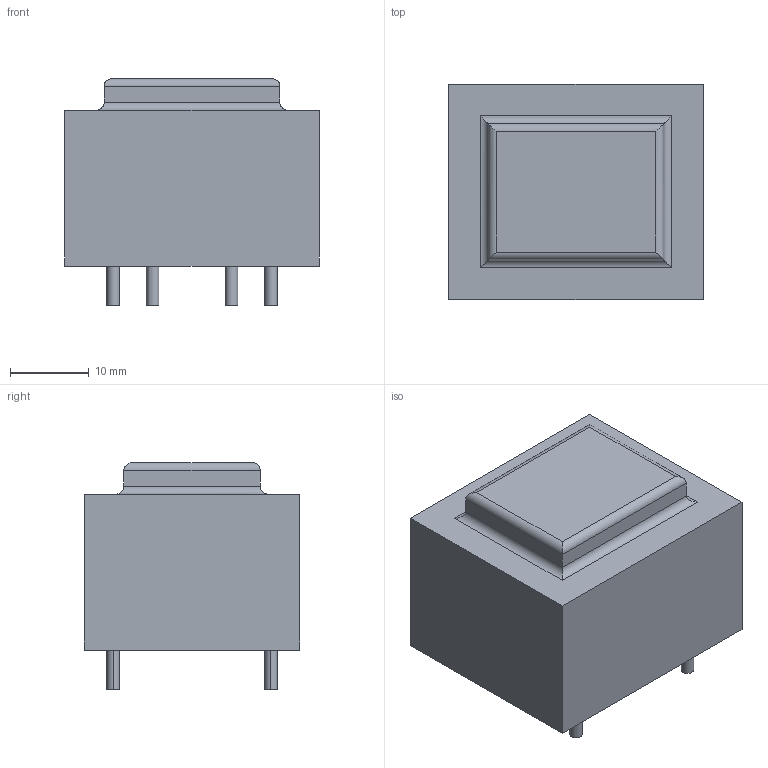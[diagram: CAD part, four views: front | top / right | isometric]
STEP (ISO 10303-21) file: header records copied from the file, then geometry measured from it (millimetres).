
FILE_DESCRIPTION (( 'STEP AP214' ), '1' );
FILE_NAME ('transformers.STEP', '2015-01-05T22:48:32', ( '' ), ( '' ), 'SwSTEP 2.0', 'SolidWorks 2014', '' );
FILE_SCHEMA (( 'AUTOMOTIVE_DESIGN' ));
Length unit declared in the file: millimetre
Products named in the file (1): transformers
Bounding box: 32.3 x 27.3 x 28.8 mm (x, y, z)
Volume: 19043.6 mm3; surface area: 4473.1 mm2
Topology: 1 solids, 1 shells, 31 faces, 64 edges, 40 vertices
Faces by surface type: cylinder 16, plane 15
Entity records: 1053 total; most frequent: CARTESIAN_POINT 160, DIRECTION 136, ORIENTED_EDGE 128, EDGE_CURVE 64, AXIS2_PLACEMENT_3D 48, VECTOR 40, VERTEX_POINT 40, LINE 40
